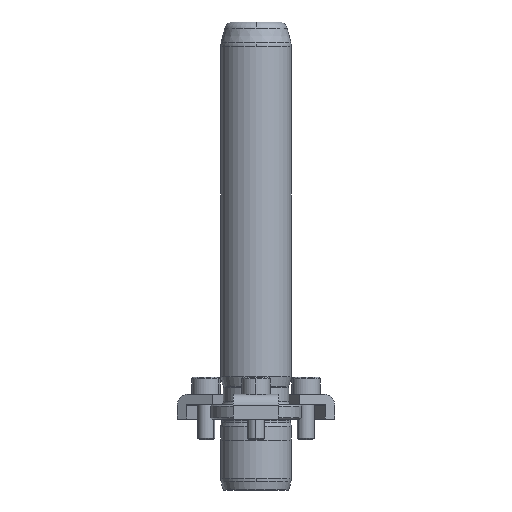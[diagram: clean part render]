
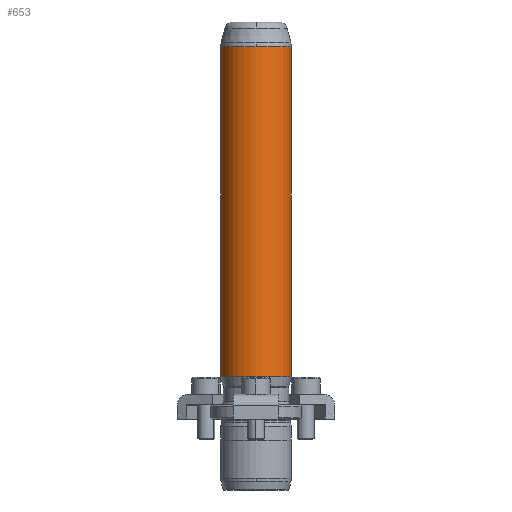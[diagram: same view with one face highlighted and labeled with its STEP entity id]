
A CAD part, front view. The second image highlights one B-rep face of the part: STEP entity #653.
In plain terms, the highlighted cylindrical face has radius 12.5 mm (diameter 25 mm), a partial arc.
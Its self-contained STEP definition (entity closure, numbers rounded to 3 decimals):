
#566=CARTESIAN_POINT('',(0.0,-12.5,131.342));
#567=VERTEX_POINT('',#566);
#594=CARTESIAN_POINT('',(-12.5,0.,131.342));
#595=VERTEX_POINT('',#594);
#603=CARTESIAN_POINT('',(0.0,0.,131.342));
#604=DIRECTION('',(0.0,0.0,1.0));
#605=DIRECTION('',(1.0,0.0,0.0));
#606=AXIS2_PLACEMENT_3D('',#603,#604,#605);
#607=CIRCLE('',#606,12.5);
#608=EDGE_CURVE('',#595,#567,#607,.T.);
#613=CARTESIAN_POINT('',(0.0,0.,73.171));
#614=DIRECTION('',(0.0,0.,1.0));
#615=DIRECTION('',(1.0,0.0,0.0));
#616=AXIS2_PLACEMENT_3D('',#613,#614,#615);
#617=CYLINDRICAL_SURFACE('',#616,12.5);
#618=CARTESIAN_POINT('',(12.5,0.,131.342));
#619=VERTEX_POINT('',#618);
#620=CARTESIAN_POINT('',(12.5,0.,15.0));
#621=VERTEX_POINT('',#620);
#622=CARTESIAN_POINT('',(12.5,0.,131.342));
#623=DIRECTION('',(0.0,0.0,-1.0));
#624=VECTOR('',#623,116.342);
#625=LINE('',#622,#624);
#626=EDGE_CURVE('',#619,#621,#625,.T.);
#627=ORIENTED_EDGE('',*,*,#626,.F.);
#628=CARTESIAN_POINT('',(0.0,0.,131.342));
#629=DIRECTION('',(0.0,0.0,1.0));
#630=DIRECTION('',(1.0,0.0,0.0));
#631=AXIS2_PLACEMENT_3D('',#628,#629,#630);
#632=CIRCLE('',#631,12.5);
#633=EDGE_CURVE('',#567,#619,#632,.T.);
#634=ORIENTED_EDGE('',*,*,#633,.F.);
#635=ORIENTED_EDGE('',*,*,#608,.F.);
#636=CARTESIAN_POINT('',(-12.5,0.,15.0));
#637=VERTEX_POINT('',#636);
#638=CARTESIAN_POINT('',(-12.5,0.,131.342));
#639=DIRECTION('',(0.0,0.0,-1.0));
#640=VECTOR('',#639,116.342);
#641=LINE('',#638,#640);
#642=EDGE_CURVE('',#595,#637,#641,.T.);
#643=ORIENTED_EDGE('',*,*,#642,.T.);
#644=CARTESIAN_POINT('',(0.0,0.,15.0));
#645=DIRECTION('',(0.0,0.0,1.0));
#646=DIRECTION('',(1.0,0.0,0.0));
#647=AXIS2_PLACEMENT_3D('',#644,#645,#646);
#648=CIRCLE('',#647,12.5);
#649=EDGE_CURVE('',#637,#621,#648,.T.);
#650=ORIENTED_EDGE('',*,*,#649,.T.);
#651=EDGE_LOOP('',(#627,#634,#635,#643,#650));
#652=FACE_OUTER_BOUND('',#651,.T.);
#653=ADVANCED_FACE('',(#652),#617,.T.);
